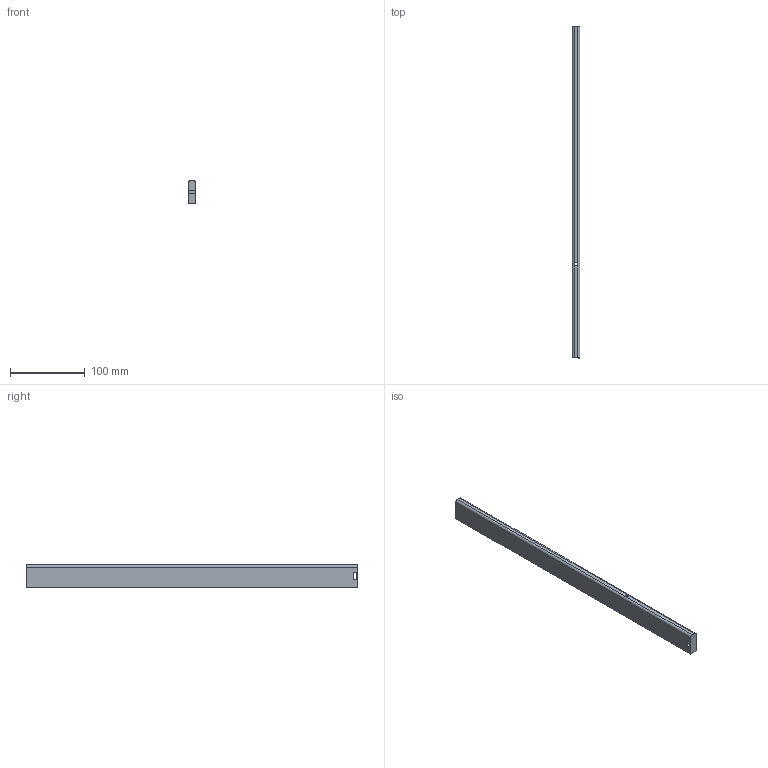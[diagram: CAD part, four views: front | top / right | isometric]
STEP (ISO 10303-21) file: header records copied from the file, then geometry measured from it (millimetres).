
FILE_DESCRIPTION (( 'STEP AP214' ), '1' );
FILE_NAME ('_Seitenreling_S760610200_RL445.step', '2010-09-06T14:51:44', ( 'grass' ), ( '' ), 'SwSTEP 2.0', 'SolidWorks 2010', '' );
FILE_SCHEMA (( 'AUTOMOTIVE_DESIGN' ));
Length unit declared in the file: millimetre
Products named in the file (1): _Seitenreling_S760610200_RL445
Bounding box: 10.5 x 445 x 30 mm (x, y, z)
Volume: 137068.3 mm3; surface area: 36240.4 mm2
Topology: 1 solids, 1 shells, 18 faces, 46 edges, 30 vertices
Faces by surface type: plane 10, cylinder 8
Entity records: 594 total; most frequent: DIRECTION 102, CARTESIAN_POINT 95, ORIENTED_EDGE 92, EDGE_CURVE 46, AXIS2_PLACEMENT_3D 37, VERTEX_POINT 30, VECTOR 28, LINE 28
